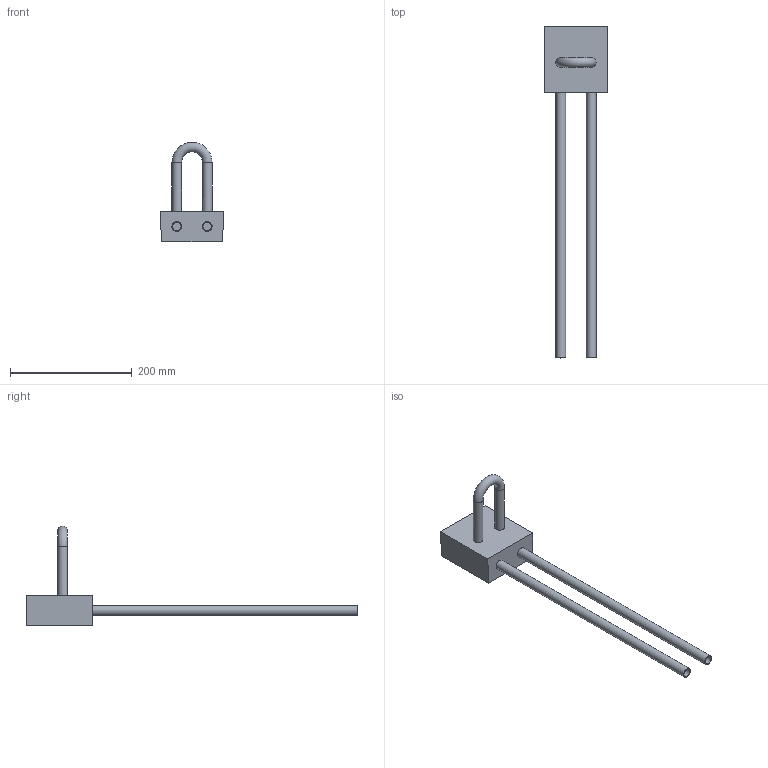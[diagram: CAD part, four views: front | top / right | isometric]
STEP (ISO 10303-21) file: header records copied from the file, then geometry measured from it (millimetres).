
FILE_DESCRIPTION(/* description */ (''),/* implementation_level */ '2;1');
FILE_NAME(/* name */ '\\LG50011\SANHA_Legnica\Engineering\Public\PROJEKTY\SANHA-BOX_Support_BiR\002-Rysunki_Boxów\25-HK-M\Zespół-325HKM16.stp',/* time_stamp */ '2018-11-05T14:30:56+01:00',/* author */ ('gomulka'),/* organization */ (''),/* preprocessor_version */ 'ST-DEVELOPER v16.13',/* originating_system */ 'Autodesk Inventor 2018',/* authorisation */ '');
FILE_SCHEMA (('AUTOMOTIVE_DESIGN { 1 0 10303 214 3 1 1 }'));
Length unit declared in the file: millimetre
Products named in the file (4): Zespół-325HKM16; 325HKM16; Rura16x2-kolano; Rura_16x2
Assembly tree (4 placements, depth 2):
  Zespół-325HKM16
    325HKM16
    Rura16x2-kolano
    Rura_16x2  x2
Bounding box: 105 x 545.82 x 163.52 mm (x, y, z)
Volume: 614129.2 mm3; surface area: 162950.5 mm2
Topology: 4 solids, 4 shells, 34 faces, 70 edges, 48 vertices
Faces by surface type: plane 16, cylinder 16, torus 2
Full cylindrical faces by diameter (mm): 14 x4, 16 x8
Entity records: 991 total; most frequent: CARTESIAN_POINT 218, DIRECTION 152, ORIENTED_EDGE 96, AXIS2_PLACEMENT_3D 70, EDGE_LOOP 50, EDGE_CURVE 48, VERTEX_POINT 40, FACE_OUTER_BOUND 30
